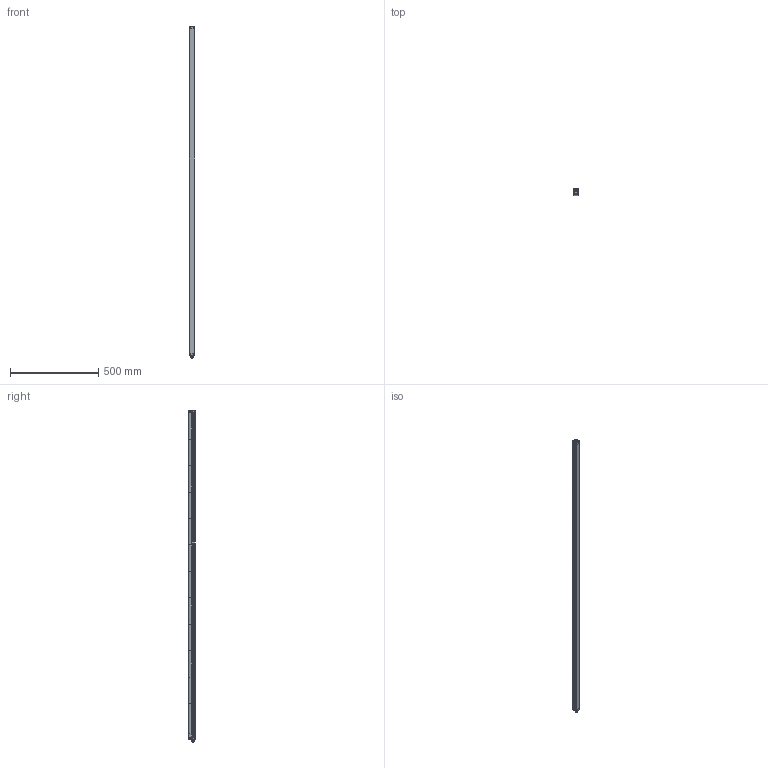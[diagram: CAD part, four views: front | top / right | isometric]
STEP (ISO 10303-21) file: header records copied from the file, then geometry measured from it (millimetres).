
FILE_DESCRIPTION(/* description */ (''),/* implementation_level */ '2;1');
FILE_NAME(/* name */ 'DSD-0180.stp',/* time_stamp */ '2020-07-16T16:23:32+02:00',/* author */ (''),/* organization */ (''),/* preprocessor_version */ 'ST-DEVELOPER v16.7',/* originating_system */ 'SIEMENS PLM Software NX 12.0',/* authorisation */ '');
FILE_SCHEMA (('AUTOMOTIVE_DESIGN { 1 0 10303 214 3 1 1 1 }'));
Products named in the file (1): AP025836_00_1-DSD-0180
Bounding box: 32.3 x 36.9 x 1882.94 mm (x, y, z)
Volume: 1900163.2 mm3; surface area: 436775 mm2
Topology: 11 solids, 813 shells, 1680 faces, 5318 edges, 4191 vertices
Faces by surface type: cylinder 614, bspline 586, plane 384, sphere 53, cone 35, torus 8
Full cylindrical faces by diameter (mm): 0.8 x16, 1.5 x6, 2 x6, 2.05 x4, 2.5 x12, 2.7 x10, 2.9 x6, 3 x12, 3.4 x6, 3.6 x12, 4.7 x2, 5 x10, 5.3 x2, 7.5 x1, 8 x1, 8.3 x1, 9.3 x1, 9.5 x1, 9.55 x1, 10.5 x1, 11 x2, 12 x12, 13.97 x1, 14.3 x1, 16 x2
Entity records: 87568 total; most frequent: CARTESIAN_POINT 37483, ORIENTED_EDGE 6995, DIRECTION 6132, EDGE_CURVE 5031, VERTEX_POINT 4183, AXIS2_PLACEMENT_3D 2409, EDGE_LOOP 1988, PRESENTATION_STYLE_ASSIGNMENT 1683
